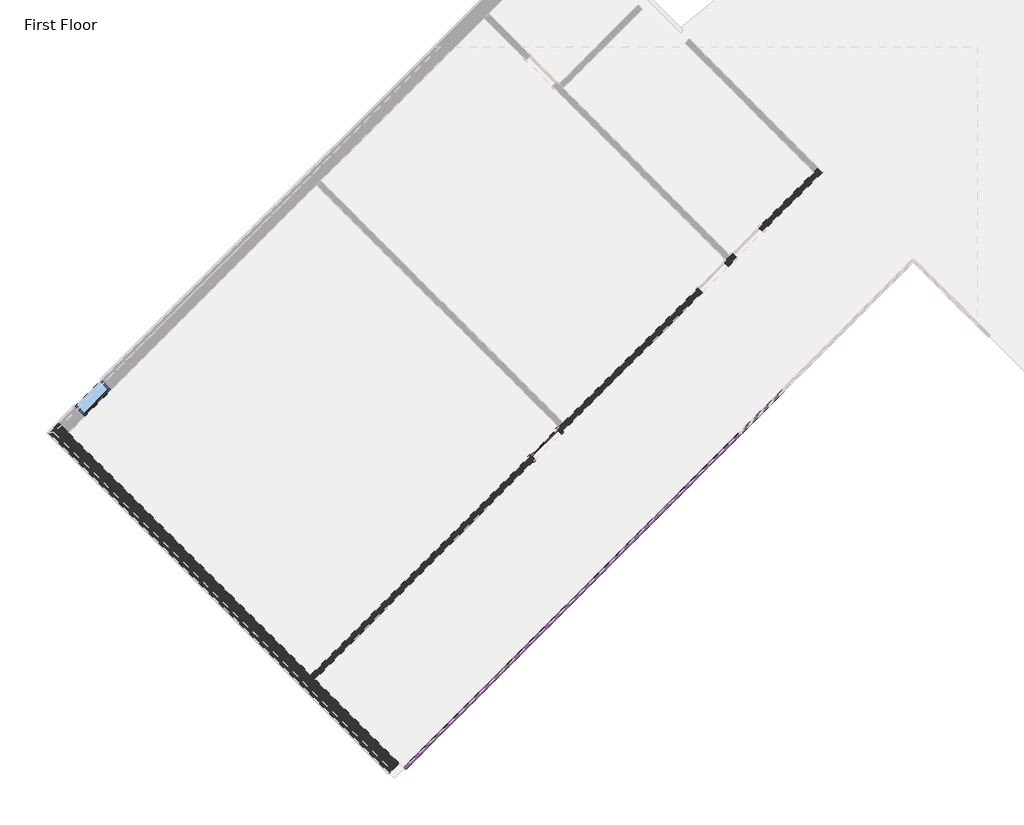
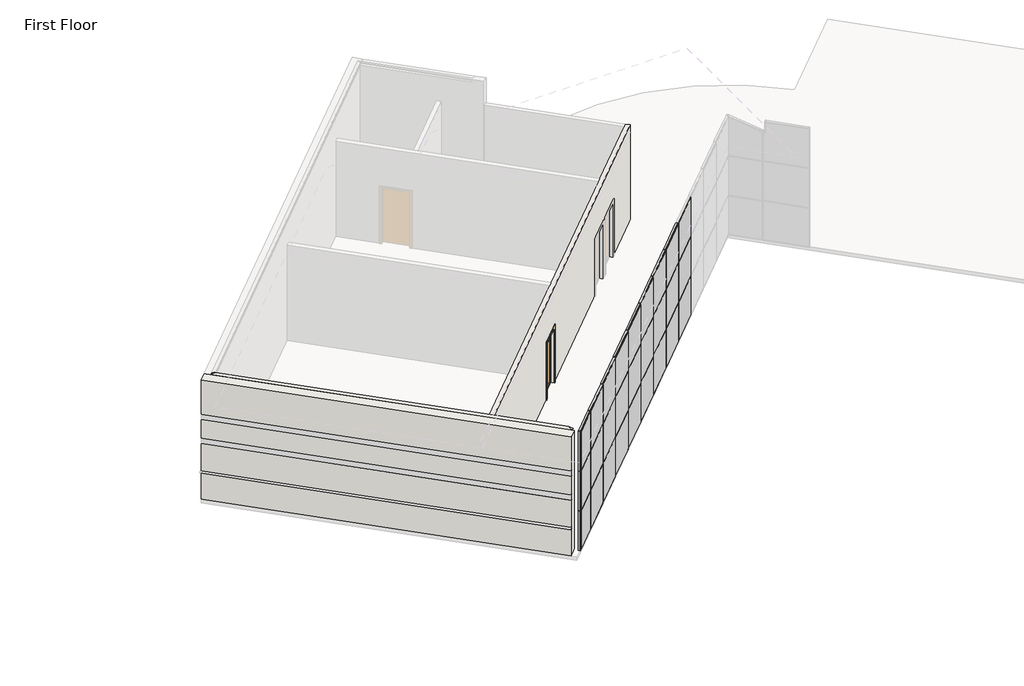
# One storey, part 1 of 5: 56 members, 27 plates, 2 walls, 1 door, 1 window.
"""IFC4 building model written with IfcOpenShell, lengths in millimetres."""

from ifc_helpers import new_model, si_unit, origin, place, context, project, spatial, faceted_brep, transform, mapped, element, save
from components import door_b81abb0e, member_bd80eb51, member_155beb68, member_42be4715, member_a3731390, member_6121af53, member_b87a50da, system_panel_solid_2f1037e2, system_panel_solid_5fd6f37f, system_panel_solid_6e0f4c8d, system_panel_solid_e1a07a15, window_15c49d37

model = new_model("IFC4")

# Units and contexts
model_context = context("Model", 3, world=origin())
ifc_project = project(units=[si_unit("LENGTHUNIT", "METRE", prefix="MILLI")], contexts=[model_context])

# Site, building, storey
site = spatial("IfcSite", under=ifc_project)
building = spatial("IfcBuilding", under=site)
storey = spatial("IfcBuildingStorey", under=building, Name="First Floor", Elevation=0.0)

# Door
placement = place(None, origin())
door_shape = door_b81abb0e(model_context)
element("IfcDoor", 1, ObjectType="Single-Glass 1 : 36\" x 84\"", at=placement, inside=storey, context=model_context, shape_type="MappedRepresentation", body=[
    mapped(door_shape, transform((-12602.8718391, -2278.0890678, 0.0), x_axis=(0.707106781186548, 0.707106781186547, 0.0), y_axis=(-0.707106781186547, 0.707106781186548, 0.0), z_axis=(0.0, 0.0, 1.0))),
])

# Members
member_shape = member_bd80eb51(model_context)
element("IfcMember", 2, ObjectType="Rectangular Mullion : 1.5\" x 2.5\" Rectangular", at=placement, inside=storey, context=model_context, shape_type="MappedRepresentation", body=[
    mapped(member_shape, transform((-16098.4365342, -10333.3788084, 4572.0), x_axis=(0.0, 0.0, 1.0), y_axis=(-0.7071067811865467, 0.7071067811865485, 0.0), z_axis=(-0.7071067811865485, -0.7071067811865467, 0.0))),
])
member_2_shape = member_155beb68(model_context)
element("IfcMember", 3, ObjectType="Rectangular Mullion : 1.5\" x 2.5\" Rectangular", at=placement, inside=storey, context=model_context, shape_type="MappedRepresentation", body=[
    mapped(member_2_shape, transform((-8831.1642682, -3066.1065424, 0.0), x_axis=(-0.7071067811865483, -0.7071067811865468, 0.0), y_axis=(-0.7071067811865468, 0.7071067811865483, 0.0), z_axis=(0.0, 0.0, -1.0))),
])
element("IfcMember", 4, ObjectType="Rectangular Mullion : 1.5\" x 2.5\" Rectangular", at=placement, inside=storey, context=model_context, shape_type="MappedRepresentation", body=[
    mapped(member_2_shape, transform((-9908.7950028, -4143.7372769, 0.0), x_axis=(-0.7071067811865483, -0.7071067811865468, 0.0), y_axis=(-0.7071067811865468, 0.7071067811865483, 0.0), z_axis=(0.0, 0.0, -1.0))),
])
element("IfcMember", 5, ObjectType="Rectangular Mullion : 1.5\" x 2.5\" Rectangular", at=placement, inside=storey, context=model_context, shape_type="MappedRepresentation", body=[
    mapped(member_2_shape, transform((-10986.4257373, -5221.3680114, 0.0), x_axis=(-0.7071067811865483, -0.7071067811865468, 0.0), y_axis=(-0.7071067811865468, 0.7071067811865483, 0.0), z_axis=(0.0, 0.0, -1.0))),
])
element("IfcMember", 6, ObjectType="Rectangular Mullion : 1.5\" x 2.5\" Rectangular", at=placement, inside=storey, context=model_context, shape_type="MappedRepresentation", body=[
    mapped(member_2_shape, transform((-12064.0564718, -6298.998746, 0.0), x_axis=(-0.7071067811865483, -0.7071067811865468, 0.0), y_axis=(-0.7071067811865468, 0.7071067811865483, 0.0), z_axis=(0.0, 0.0, -1.0))),
])
element("IfcMember", 7, ObjectType="Rectangular Mullion : 1.5\" x 2.5\" Rectangular", at=placement, inside=storey, context=model_context, shape_type="MappedRepresentation", body=[
    mapped(member_2_shape, transform((-13141.6872064, -7376.6294805, 0.0), x_axis=(-0.7071067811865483, -0.7071067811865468, 0.0), y_axis=(-0.7071067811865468, 0.7071067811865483, 0.0), z_axis=(0.0, 0.0, -1.0))),
])
element("IfcMember", 8, ObjectType="Rectangular Mullion : 1.5\" x 2.5\" Rectangular", at=placement, inside=storey, context=model_context, shape_type="MappedRepresentation", body=[
    mapped(member_2_shape, transform((-14219.3179409, -8454.260215, 0.0), x_axis=(-0.7071067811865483, -0.7071067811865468, 0.0), y_axis=(-0.7071067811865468, 0.7071067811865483, 0.0), z_axis=(0.0, 0.0, -1.0))),
])
element("IfcMember", 9, ObjectType="Rectangular Mullion : 1.5\" x 2.5\" Rectangular", at=placement, inside=storey, context=model_context, shape_type="MappedRepresentation", body=[
    mapped(member_2_shape, transform((-15296.9486754, -9531.8909496, 0.0), x_axis=(-0.7071067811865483, -0.7071067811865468, 0.0), y_axis=(-0.7071067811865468, 0.7071067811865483, 0.0), z_axis=(0.0, 0.0, -1.0))),
])
member_3_shape = member_42be4715(model_context)
element("IfcMember", 10, ObjectType="Rectangular Mullion : 1.5\" x 2.5\" Rectangular", at=placement, inside=storey, context=model_context, shape_type="MappedRepresentation", body=[
    mapped(member_3_shape, transform((-8817.6938841, -3052.6361582, 1524.0), x_axis=(0.0, 0.0, 1.0), y_axis=(-0.7071067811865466, 0.7071067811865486, 0.0), z_axis=(-0.7071067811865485, -0.7071067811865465, 0.0))),
])
element("IfcMember", 11, ObjectType="Rectangular Mullion : 1.5\" x 2.5\" Rectangular", at=placement, inside=storey, context=model_context, shape_type="MappedRepresentation", body=[
    mapped(member_3_shape, transform((-9895.3246186, -4130.2668927, 1524.0), x_axis=(0.0, 0.0, 1.0), y_axis=(-0.7071067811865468, 0.7071067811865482, 0.0), z_axis=(-0.7071067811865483, -0.7071067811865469, 0.0))),
])
element("IfcMember", 12, ObjectType="Rectangular Mullion : 1.5\" x 2.5\" Rectangular", at=placement, inside=storey, context=model_context, shape_type="MappedRepresentation", body=[
    mapped(member_3_shape, transform((-10972.9553531, -5207.8976273, 1524.0), x_axis=(0.0, 0.0, 1.0), y_axis=(-0.7071067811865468, 0.7071067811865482, 0.0), z_axis=(-0.7071067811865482, -0.7071067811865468, 0.0))),
])
element("IfcMember", 13, ObjectType="Rectangular Mullion : 1.5\" x 2.5\" Rectangular", at=placement, inside=storey, context=model_context, shape_type="MappedRepresentation", body=[
    mapped(member_3_shape, transform((-12050.5860877, -6285.5283618, 1524.0), x_axis=(0.0, 0.0, 1.0), y_axis=(-0.7071067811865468, 0.7071067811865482, 0.0), z_axis=(-0.7071067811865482, -0.7071067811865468, 0.0))),
])
element("IfcMember", 14, ObjectType="Rectangular Mullion : 1.5\" x 2.5\" Rectangular", at=placement, inside=storey, context=model_context, shape_type="MappedRepresentation", body=[
    mapped(member_3_shape, transform((-13128.2168222, -7363.1590963, 1524.0), x_axis=(0.0, 0.0, 1.0), y_axis=(-0.7071067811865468, 0.7071067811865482, 0.0), z_axis=(-0.7071067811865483, -0.7071067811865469, 0.0))),
])
element("IfcMember", 15, ObjectType="Rectangular Mullion : 1.5\" x 2.5\" Rectangular", at=placement, inside=storey, context=model_context, shape_type="MappedRepresentation", body=[
    mapped(member_3_shape, transform((-14205.8475567, -8440.7898309, 1524.0), x_axis=(0.0, 0.0, 1.0), y_axis=(-0.7071067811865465, 0.7071067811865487, 0.0), z_axis=(-0.7071067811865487, -0.7071067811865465, 0.0))),
])
element("IfcMember", 16, ObjectType="Rectangular Mullion : 1.5\" x 2.5\" Rectangular", at=placement, inside=storey, context=model_context, shape_type="MappedRepresentation", body=[
    mapped(member_3_shape, transform((-15283.4782912, -9518.4205654, 1524.0), x_axis=(0.0, 0.0, 1.0), y_axis=(-0.7071067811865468, 0.7071067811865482, 0.0), z_axis=(-0.7071067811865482, -0.7071067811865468, 0.0))),
])
element("IfcMember", 17, ObjectType="Rectangular Mullion : 1.5\" x 2.5\" Rectangular", at=placement, inside=storey, context=model_context, shape_type="MappedRepresentation", body=[
    mapped(member_3_shape, transform((-8817.6938841, -3052.6361582, 3048.0), x_axis=(0.0, 0.0, 1.0), y_axis=(-0.7071067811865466, 0.7071067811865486, 0.0), z_axis=(-0.7071067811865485, -0.7071067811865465, 0.0))),
])
element("IfcMember", 18, ObjectType="Rectangular Mullion : 1.5\" x 2.5\" Rectangular", at=placement, inside=storey, context=model_context, shape_type="MappedRepresentation", body=[
    mapped(member_3_shape, transform((-9895.3246186, -4130.2668927, 3048.0), x_axis=(0.0, 0.0, 1.0), y_axis=(-0.7071067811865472, 0.7071067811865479, 0.0), z_axis=(-0.7071067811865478, -0.7071067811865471, 0.0))),
])
element("IfcMember", 19, ObjectType="Rectangular Mullion : 1.5\" x 2.5\" Rectangular", at=placement, inside=storey, context=model_context, shape_type="MappedRepresentation", body=[
    mapped(member_3_shape, transform((-10972.9553531, -5207.8976273, 3048.0), x_axis=(0.0, 0.0, 1.0), y_axis=(-0.7071067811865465, 0.7071067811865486, 0.0), z_axis=(-0.7071067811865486, -0.7071067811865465, 0.0))),
])
element("IfcMember", 20, ObjectType="Rectangular Mullion : 1.5\" x 2.5\" Rectangular", at=placement, inside=storey, context=model_context, shape_type="MappedRepresentation", body=[
    mapped(member_3_shape, transform((-12050.5860877, -6285.5283618, 3048.0), x_axis=(0.0, 0.0, 1.0), y_axis=(-0.7071067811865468, 0.7071067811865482, 0.0), z_axis=(-0.7071067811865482, -0.7071067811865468, 0.0))),
])
element("IfcMember", 21, ObjectType="Rectangular Mullion : 1.5\" x 2.5\" Rectangular", at=placement, inside=storey, context=model_context, shape_type="MappedRepresentation", body=[
    mapped(member_3_shape, transform((-13128.2168222, -7363.1590963, 3048.0), x_axis=(0.0, 0.0, 1.0), y_axis=(-0.7071067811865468, 0.7071067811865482, 0.0), z_axis=(-0.7071067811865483, -0.7071067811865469, 0.0))),
])
element("IfcMember", 22, ObjectType="Rectangular Mullion : 1.5\" x 2.5\" Rectangular", at=placement, inside=storey, context=model_context, shape_type="MappedRepresentation", body=[
    mapped(member_3_shape, transform((-14205.8475567, -8440.7898309, 3048.0), x_axis=(0.0, 0.0, 1.0), y_axis=(-0.7071067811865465, 0.7071067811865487, 0.0), z_axis=(-0.7071067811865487, -0.7071067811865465, 0.0))),
])
element("IfcMember", 23, ObjectType="Rectangular Mullion : 1.5\" x 2.5\" Rectangular", at=placement, inside=storey, context=model_context, shape_type="MappedRepresentation", body=[
    mapped(member_3_shape, transform((-15283.4782912, -9518.4205654, 3048.0), x_axis=(0.0, 0.0, 1.0), y_axis=(-0.7071067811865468, 0.7071067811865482, 0.0), z_axis=(-0.7071067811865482, -0.7071067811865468, 0.0))),
])
member_4_shape = member_a3731390(model_context)
element("IfcMember", 24, ObjectType="Rectangular Mullion : 1.5\" x 2.5\" Rectangular", at=placement, inside=storey, context=model_context, shape_type="MappedRepresentation", body=[
    mapped(member_4_shape, transform((-16098.4365342, -10333.3788084, 1524.0), x_axis=(0.0, 0.0, 1.0), y_axis=(-0.7071067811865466, 0.7071067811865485, 0.0), z_axis=(-0.7071067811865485, -0.7071067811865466, 0.0))),
])
element("IfcMember", 25, ObjectType="Rectangular Mullion : 1.5\" x 2.5\" Rectangular", at=placement, inside=storey, context=model_context, shape_type="MappedRepresentation", body=[
    mapped(member_4_shape, transform((-16098.4365342, -10333.3788084, 3048.0), x_axis=(0.0, 0.0, 1.0), y_axis=(-0.7071067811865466, 0.7071067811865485, 0.0), z_axis=(-0.7071067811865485, -0.7071067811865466, 0.0))),
])
member_5_shape = member_6121af53(model_context)
element("IfcMember", 26, ObjectType="Rectangular Mullion : 1.5\" x 2.5\" Rectangular", at=placement, inside=storey, context=model_context, shape_type="MappedRepresentation", body=[
    mapped(member_5_shape, transform((-7767.0039179, -2001.946192, 0.0), x_axis=(0.0, 0.0, -1.0), y_axis=(-0.7071067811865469, 0.7071067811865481, 0.0), z_axis=(0.7071067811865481, 0.7071067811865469, 0.0))),
])
element("IfcMember", 27, ObjectType="Rectangular Mullion : 1.5\" x 2.5\" Rectangular", at=placement, inside=storey, context=model_context, shape_type="MappedRepresentation", body=[
    mapped(member_5_shape, transform((-8844.6346524, -3079.5769266, 0.0), x_axis=(0.0, 0.0, -1.0), y_axis=(-0.7071067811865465, 0.7071067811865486, 0.0), z_axis=(0.7071067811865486, 0.7071067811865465, 0.0))),
])
element("IfcMember", 28, ObjectType="Rectangular Mullion : 1.5\" x 2.5\" Rectangular", at=placement, inside=storey, context=model_context, shape_type="MappedRepresentation", body=[
    mapped(member_5_shape, transform((-9922.265387, -4157.2076611, 0.0), x_axis=(0.0, 0.0, -1.0), y_axis=(-0.7071067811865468, 0.7071067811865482, 0.0), z_axis=(0.7071067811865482, 0.7071067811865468, 0.0))),
])
element("IfcMember", 29, ObjectType="Rectangular Mullion : 1.5\" x 2.5\" Rectangular", at=placement, inside=storey, context=model_context, shape_type="MappedRepresentation", body=[
    mapped(member_5_shape, transform((-10999.8961215, -5234.8383956, 0.0), x_axis=(0.0, 0.0, -1.0), y_axis=(-0.7071067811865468, 0.7071067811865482, 0.0), z_axis=(0.7071067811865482, 0.7071067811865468, 0.0))),
])
element("IfcMember", 30, ObjectType="Rectangular Mullion : 1.5\" x 2.5\" Rectangular", at=placement, inside=storey, context=model_context, shape_type="MappedRepresentation", body=[
    mapped(member_5_shape, transform((-12077.526856, -6312.4691302, 0.0), x_axis=(0.0, 0.0, -1.0), y_axis=(-0.7071067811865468, 0.7071067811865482, 0.0), z_axis=(0.7071067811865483, 0.7071067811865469, 0.0))),
])
element("IfcMember", 31, ObjectType="Rectangular Mullion : 1.5\" x 2.5\" Rectangular", at=placement, inside=storey, context=model_context, shape_type="MappedRepresentation", body=[
    mapped(member_5_shape, transform((-13155.1575905, -7390.0998647, 0.0), x_axis=(0.0, 0.0, -1.0), y_axis=(-0.7071067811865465, 0.7071067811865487, 0.0), z_axis=(0.7071067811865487, 0.7071067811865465, 0.0))),
])
element("IfcMember", 32, ObjectType="Rectangular Mullion : 1.5\" x 2.5\" Rectangular", at=placement, inside=storey, context=model_context, shape_type="MappedRepresentation", body=[
    mapped(member_5_shape, transform((-14232.7883251, -8467.7305992, 0.0), x_axis=(0.0, 0.0, -1.0), y_axis=(-0.7071067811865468, 0.7071067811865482, 0.0), z_axis=(0.7071067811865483, 0.7071067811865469, 0.0))),
])
element("IfcMember", 33, ObjectType="Rectangular Mullion : 1.5\" x 2.5\" Rectangular", at=placement, inside=storey, context=model_context, shape_type="MappedRepresentation", body=[
    mapped(member_shape, transform((-15310.4190596, -9545.3613337, 0.0), x_axis=(0.0, 0.0, -1.0), y_axis=(-0.7071067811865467, 0.7071067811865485, 0.0), z_axis=(0.7071067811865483, 0.7071067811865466, 0.0))),
])
element("IfcMember", 34, ObjectType="Rectangular Mullion : 1.5\" x 2.5\" Rectangular", at=placement, inside=storey, context=model_context, shape_type="MappedRepresentation", body=[
    mapped(member_5_shape, transform((-8817.6938841, -3052.6361582, 4572.0), x_axis=(0.0, 0.0, 1.0), y_axis=(-0.7071067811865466, 0.7071067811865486, 0.0), z_axis=(-0.7071067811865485, -0.7071067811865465, 0.0))),
])
element("IfcMember", 35, ObjectType="Rectangular Mullion : 1.5\" x 2.5\" Rectangular", at=placement, inside=storey, context=model_context, shape_type="MappedRepresentation", body=[
    mapped(member_5_shape, transform((-9895.3246186, -4130.2668927, 4572.0), x_axis=(0.0, 0.0, 1.0), y_axis=(-0.7071067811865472, 0.7071067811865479, 0.0), z_axis=(-0.7071067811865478, -0.7071067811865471, 0.0))),
])
element("IfcMember", 36, ObjectType="Rectangular Mullion : 1.5\" x 2.5\" Rectangular", at=placement, inside=storey, context=model_context, shape_type="MappedRepresentation", body=[
    mapped(member_5_shape, transform((-10972.9553531, -5207.8976273, 4572.0), x_axis=(0.0, 0.0, 1.0), y_axis=(-0.7071067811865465, 0.7071067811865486, 0.0), z_axis=(-0.7071067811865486, -0.7071067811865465, 0.0))),
])
element("IfcMember", 37, ObjectType="Rectangular Mullion : 1.5\" x 2.5\" Rectangular", at=placement, inside=storey, context=model_context, shape_type="MappedRepresentation", body=[
    mapped(member_5_shape, transform((-12050.5860877, -6285.5283618, 4572.0), x_axis=(0.0, 0.0, 1.0), y_axis=(-0.7071067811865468, 0.7071067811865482, 0.0), z_axis=(-0.7071067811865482, -0.7071067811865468, 0.0))),
])
element("IfcMember", 38, ObjectType="Rectangular Mullion : 1.5\" x 2.5\" Rectangular", at=placement, inside=storey, context=model_context, shape_type="MappedRepresentation", body=[
    mapped(member_5_shape, transform((-13128.2168222, -7363.1590963, 4572.0), x_axis=(0.0, 0.0, 1.0), y_axis=(-0.7071067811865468, 0.7071067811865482, 0.0), z_axis=(-0.7071067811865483, -0.7071067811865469, 0.0))),
])
element("IfcMember", 39, ObjectType="Rectangular Mullion : 1.5\" x 2.5\" Rectangular", at=placement, inside=storey, context=model_context, shape_type="MappedRepresentation", body=[
    mapped(member_5_shape, transform((-14205.8475567, -8440.7898309, 4572.0), x_axis=(0.0, 0.0, 1.0), y_axis=(-0.7071067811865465, 0.7071067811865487, 0.0), z_axis=(-0.7071067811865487, -0.7071067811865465, 0.0))),
])
element("IfcMember", 40, ObjectType="Rectangular Mullion : 1.5\" x 2.5\" Rectangular", at=placement, inside=storey, context=model_context, shape_type="MappedRepresentation", body=[
    mapped(member_5_shape, transform((-15283.4782912, -9518.4205654, 4572.0), x_axis=(0.0, 0.0, 1.0), y_axis=(-0.7071067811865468, 0.7071067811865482, 0.0), z_axis=(-0.7071067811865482, -0.7071067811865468, 0.0))),
])
element("IfcMember", 41, ObjectType="Rectangular Mullion : 1.5\" x 2.5\" Rectangular", at=placement, inside=storey, context=model_context, shape_type="MappedRepresentation", body=[
    mapped(member_2_shape, transform((-8831.1642682, -3066.1065424, 1524.0), x_axis=(-0.7071067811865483, -0.7071067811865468, 0.0), y_axis=(-0.7071067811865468, 0.7071067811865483, 0.0), z_axis=(0.0, 0.0, -1.0))),
])
element("IfcMember", 42, ObjectType="Rectangular Mullion : 1.5\" x 2.5\" Rectangular", at=placement, inside=storey, context=model_context, shape_type="MappedRepresentation", body=[
    mapped(member_2_shape, transform((-9908.7950028, -4143.7372769, 1524.0), x_axis=(-0.7071067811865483, -0.7071067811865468, 0.0), y_axis=(-0.7071067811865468, 0.7071067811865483, 0.0), z_axis=(0.0, 0.0, -1.0))),
])
element("IfcMember", 43, ObjectType="Rectangular Mullion : 1.5\" x 2.5\" Rectangular", at=placement, inside=storey, context=model_context, shape_type="MappedRepresentation", body=[
    mapped(member_2_shape, transform((-10986.4257373, -5221.3680114, 1524.0), x_axis=(-0.7071067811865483, -0.7071067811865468, 0.0), y_axis=(-0.7071067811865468, 0.7071067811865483, 0.0), z_axis=(0.0, 0.0, -1.0))),
])
element("IfcMember", 44, ObjectType="Rectangular Mullion : 1.5\" x 2.5\" Rectangular", at=placement, inside=storey, context=model_context, shape_type="MappedRepresentation", body=[
    mapped(member_2_shape, transform((-12064.0564718, -6298.998746, 1524.0), x_axis=(-0.7071067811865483, -0.7071067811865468, 0.0), y_axis=(-0.7071067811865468, 0.7071067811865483, 0.0), z_axis=(0.0, 0.0, -1.0))),
])
element("IfcMember", 45, ObjectType="Rectangular Mullion : 1.5\" x 2.5\" Rectangular", at=placement, inside=storey, context=model_context, shape_type="MappedRepresentation", body=[
    mapped(member_2_shape, transform((-13141.6872064, -7376.6294805, 1524.0), x_axis=(-0.7071067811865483, -0.7071067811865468, 0.0), y_axis=(-0.7071067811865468, 0.7071067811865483, 0.0), z_axis=(0.0, 0.0, -1.0))),
])
element("IfcMember", 46, ObjectType="Rectangular Mullion : 1.5\" x 2.5\" Rectangular", at=placement, inside=storey, context=model_context, shape_type="MappedRepresentation", body=[
    mapped(member_2_shape, transform((-14219.3179409, -8454.260215, 1524.0), x_axis=(-0.7071067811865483, -0.7071067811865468, 0.0), y_axis=(-0.7071067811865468, 0.7071067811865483, 0.0), z_axis=(0.0, 0.0, -1.0))),
])
element("IfcMember", 47, ObjectType="Rectangular Mullion : 1.5\" x 2.5\" Rectangular", at=placement, inside=storey, context=model_context, shape_type="MappedRepresentation", body=[
    mapped(member_2_shape, transform((-15296.9486754, -9531.8909496, 1524.0), x_axis=(-0.7071067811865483, -0.7071067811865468, 0.0), y_axis=(-0.7071067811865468, 0.7071067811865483, 0.0), z_axis=(0.0, 0.0, -1.0))),
])
element("IfcMember", 48, ObjectType="Rectangular Mullion : 1.5\" x 2.5\" Rectangular", at=placement, inside=storey, context=model_context, shape_type="MappedRepresentation", body=[
    mapped(member_2_shape, transform((-8831.1642682, -3066.1065424, 3048.0), x_axis=(-0.7071067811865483, -0.7071067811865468, 0.0), y_axis=(-0.7071067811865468, 0.7071067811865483, 0.0), z_axis=(0.0, 0.0, -1.0))),
])
element("IfcMember", 49, ObjectType="Rectangular Mullion : 1.5\" x 2.5\" Rectangular", at=placement, inside=storey, context=model_context, shape_type="MappedRepresentation", body=[
    mapped(member_2_shape, transform((-9908.7950028, -4143.7372769, 3048.0), x_axis=(-0.7071067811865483, -0.7071067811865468, 0.0), y_axis=(-0.7071067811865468, 0.7071067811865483, 0.0), z_axis=(0.0, 0.0, -1.0))),
])
element("IfcMember", 50, ObjectType="Rectangular Mullion : 1.5\" x 2.5\" Rectangular", at=placement, inside=storey, context=model_context, shape_type="MappedRepresentation", body=[
    mapped(member_2_shape, transform((-10986.4257373, -5221.3680114, 3048.0), x_axis=(-0.7071067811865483, -0.7071067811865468, 0.0), y_axis=(-0.7071067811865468, 0.7071067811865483, 0.0), z_axis=(0.0, 0.0, -1.0))),
])
element("IfcMember", 51, ObjectType="Rectangular Mullion : 1.5\" x 2.5\" Rectangular", at=placement, inside=storey, context=model_context, shape_type="MappedRepresentation", body=[
    mapped(member_2_shape, transform((-12064.0564718, -6298.998746, 3048.0), x_axis=(-0.7071067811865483, -0.7071067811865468, 0.0), y_axis=(-0.7071067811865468, 0.7071067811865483, 0.0), z_axis=(0.0, 0.0, -1.0))),
])
element("IfcMember", 52, ObjectType="Rectangular Mullion : 1.5\" x 2.5\" Rectangular", at=placement, inside=storey, context=model_context, shape_type="MappedRepresentation", body=[
    mapped(member_2_shape, transform((-13141.6872064, -7376.6294805, 3048.0), x_axis=(-0.7071067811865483, -0.7071067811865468, 0.0), y_axis=(-0.7071067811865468, 0.7071067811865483, 0.0), z_axis=(0.0, 0.0, -1.0))),
])
element("IfcMember", 53, ObjectType="Rectangular Mullion : 1.5\" x 2.5\" Rectangular", at=placement, inside=storey, context=model_context, shape_type="MappedRepresentation", body=[
    mapped(member_2_shape, transform((-14219.3179409, -8454.260215, 3048.0), x_axis=(-0.7071067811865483, -0.7071067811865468, 0.0), y_axis=(-0.7071067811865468, 0.7071067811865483, 0.0), z_axis=(0.0, 0.0, -1.0))),
])
element("IfcMember", 54, ObjectType="Rectangular Mullion : 1.5\" x 2.5\" Rectangular", at=placement, inside=storey, context=model_context, shape_type="MappedRepresentation", body=[
    mapped(member_2_shape, transform((-15296.9486754, -9531.8909496, 3048.0), x_axis=(-0.7071067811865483, -0.7071067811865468, 0.0), y_axis=(-0.7071067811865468, 0.7071067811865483, 0.0), z_axis=(0.0, 0.0, -1.0))),
])
member_6_shape = member_b87a50da(model_context)
element("IfcMember", 55, ObjectType="Rectangular Mullion : 1.5\" x 2.5\" Rectangular", at=placement, inside=storey, context=model_context, shape_type="MappedRepresentation", body=[
    mapped(member_6_shape, transform((-16125.3773026, -10360.3195767, 0.0), x_axis=(-0.7071067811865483, -0.7071067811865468, 0.0), y_axis=(-0.7071067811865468, 0.7071067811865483, 0.0), z_axis=(0.0, 0.0, -1.0))),
])
element("IfcMember", 56, ObjectType="Rectangular Mullion : 1.5\" x 2.5\" Rectangular", at=placement, inside=storey, context=model_context, shape_type="MappedRepresentation", body=[
    mapped(member_6_shape, transform((-16125.3773026, -10360.3195767, 1524.0), x_axis=(-0.7071067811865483, -0.7071067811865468, 0.0), y_axis=(-0.7071067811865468, 0.7071067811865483, 0.0), z_axis=(0.0, 0.0, -1.0))),
])
element("IfcMember", 57, ObjectType="Rectangular Mullion : 1.5\" x 2.5\" Rectangular", at=placement, inside=storey, context=model_context, shape_type="MappedRepresentation", body=[
    mapped(member_6_shape, transform((-16125.3773026, -10360.3195767, 3048.0), x_axis=(-0.7071067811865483, -0.7071067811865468, 0.0), y_axis=(-0.7071067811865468, 0.7071067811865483, 0.0), z_axis=(0.0, 0.0, -1.0))),
])

# Plates
system_panel_solid_shape = system_panel_solid_2f1037e2(model_context)
element("IfcPlate", 58, ObjectType="System Panel : Solid", at=placement, inside=storey, context=model_context, shape_type="MappedRepresentation", body=[
    mapped(system_panel_solid_shape, transform((-7214.7181665, -1449.6604406, 38.1), x_axis=(-0.7071067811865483, -0.7071067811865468, 0.0), y_axis=(0.7071067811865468, -0.7071067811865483, 0.0), z_axis=(0.0, 0.0, 1.0))),
])
element("IfcPlate", 59, ObjectType="System Panel : Solid", at=placement, inside=storey, context=model_context, shape_type="MappedRepresentation", body=[
    mapped(system_panel_solid_shape, transform((-8292.348901, -2527.2911751, 38.1), x_axis=(-0.7071067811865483, -0.7071067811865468, 0.0), y_axis=(0.7071067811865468, -0.7071067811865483, 0.0), z_axis=(0.0, 0.0, 1.0))),
])
element("IfcPlate", 60, ObjectType="System Panel : Solid", at=placement, inside=storey, context=model_context, shape_type="MappedRepresentation", body=[
    mapped(system_panel_solid_shape, transform((-9369.9796355, -3604.9219097, 38.1), x_axis=(-0.7071067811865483, -0.7071067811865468, 0.0), y_axis=(0.7071067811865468, -0.7071067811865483, 0.0), z_axis=(0.0, 0.0, 1.0))),
])
element("IfcPlate", 61, ObjectType="System Panel : Solid", at=placement, inside=storey, context=model_context, shape_type="MappedRepresentation", body=[
    mapped(system_panel_solid_shape, transform((-10447.61037, -4682.5526442, 38.1), x_axis=(-0.7071067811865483, -0.7071067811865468, 0.0), y_axis=(0.7071067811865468, -0.7071067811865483, 0.0), z_axis=(0.0, 0.0, 1.0))),
])
element("IfcPlate", 62, ObjectType="System Panel : Solid", at=placement, inside=storey, context=model_context, shape_type="MappedRepresentation", body=[
    mapped(system_panel_solid_shape, transform((-11525.2411046, -5760.1833787, 38.1), x_axis=(-0.7071067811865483, -0.7071067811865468, 0.0), y_axis=(0.7071067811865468, -0.7071067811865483, 0.0), z_axis=(0.0, 0.0, 1.0))),
])
element("IfcPlate", 63, ObjectType="System Panel : Solid", at=placement, inside=storey, context=model_context, shape_type="MappedRepresentation", body=[
    mapped(system_panel_solid_shape, transform((-12602.8718391, -6837.8141132, 38.1), x_axis=(-0.7071067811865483, -0.7071067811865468, 0.0), y_axis=(0.7071067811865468, -0.7071067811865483, 0.0), z_axis=(0.0, 0.0, 1.0))),
])
element("IfcPlate", 64, ObjectType="System Panel : Solid", at=placement, inside=storey, context=model_context, shape_type="MappedRepresentation", body=[
    mapped(system_panel_solid_shape, transform((-13680.5025736, -7915.4448478, 38.1), x_axis=(-0.7071067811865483, -0.7071067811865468, 0.0), y_axis=(0.7071067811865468, -0.7071067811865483, 0.0), z_axis=(0.0, 0.0, 1.0))),
])
element("IfcPlate", 65, ObjectType="System Panel : Solid", at=placement, inside=storey, context=model_context, shape_type="MappedRepresentation", body=[
    mapped(system_panel_solid_shape, transform((-14758.1333082, -8993.0755823, 38.1), x_axis=(-0.7071067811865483, -0.7071067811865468, 0.0), y_axis=(0.7071067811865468, -0.7071067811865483, 0.0), z_axis=(0.0, 0.0, 1.0))),
])
element("IfcPlate", 66, ObjectType="System Panel : Solid", at=placement, inside=storey, context=model_context, shape_type="MappedRepresentation", body=[
    mapped(system_panel_solid_shape, transform((-7214.7181665, -1449.6604406, 3067.05), x_axis=(-0.7071067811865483, -0.7071067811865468, 0.0), y_axis=(0.7071067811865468, -0.7071067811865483, 0.0), z_axis=(0.0, 0.0, 1.0))),
])
element("IfcPlate", 67, ObjectType="System Panel : Solid", at=placement, inside=storey, context=model_context, shape_type="MappedRepresentation", body=[
    mapped(system_panel_solid_shape, transform((-8292.348901, -2527.2911751, 3067.05), x_axis=(-0.7071067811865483, -0.7071067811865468, 0.0), y_axis=(0.7071067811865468, -0.7071067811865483, 0.0), z_axis=(0.0, 0.0, 1.0))),
])
element("IfcPlate", 68, ObjectType="System Panel : Solid", at=placement, inside=storey, context=model_context, shape_type="MappedRepresentation", body=[
    mapped(system_panel_solid_shape, transform((-9369.9796355, -3604.9219097, 3067.05), x_axis=(-0.7071067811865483, -0.7071067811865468, 0.0), y_axis=(0.7071067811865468, -0.7071067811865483, 0.0), z_axis=(0.0, 0.0, 1.0))),
])
element("IfcPlate", 69, ObjectType="System Panel : Solid", at=placement, inside=storey, context=model_context, shape_type="MappedRepresentation", body=[
    mapped(system_panel_solid_shape, transform((-10447.61037, -4682.5526442, 3067.05), x_axis=(-0.7071067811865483, -0.7071067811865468, 0.0), y_axis=(0.7071067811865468, -0.7071067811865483, 0.0), z_axis=(0.0, 0.0, 1.0))),
])
element("IfcPlate", 70, ObjectType="System Panel : Solid", at=placement, inside=storey, context=model_context, shape_type="MappedRepresentation", body=[
    mapped(system_panel_solid_shape, transform((-11525.2411046, -5760.1833787, 3067.05), x_axis=(-0.7071067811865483, -0.7071067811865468, 0.0), y_axis=(0.7071067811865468, -0.7071067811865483, 0.0), z_axis=(0.0, 0.0, 1.0))),
])
element("IfcPlate", 71, ObjectType="System Panel : Solid", at=placement, inside=storey, context=model_context, shape_type="MappedRepresentation", body=[
    mapped(system_panel_solid_shape, transform((-12602.8718391, -6837.8141132, 3067.05), x_axis=(-0.7071067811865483, -0.7071067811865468, 0.0), y_axis=(0.7071067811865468, -0.7071067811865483, 0.0), z_axis=(0.0, 0.0, 1.0))),
])
element("IfcPlate", 72, ObjectType="System Panel : Solid", at=placement, inside=storey, context=model_context, shape_type="MappedRepresentation", body=[
    mapped(system_panel_solid_shape, transform((-13680.5025736, -7915.4448478, 3067.05), x_axis=(-0.7071067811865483, -0.7071067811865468, 0.0), y_axis=(0.7071067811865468, -0.7071067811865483, 0.0), z_axis=(0.0, 0.0, 1.0))),
])
element("IfcPlate", 73, ObjectType="System Panel : Solid", at=placement, inside=storey, context=model_context, shape_type="MappedRepresentation", body=[
    mapped(system_panel_solid_shape, transform((-14758.1333082, -8993.0755823, 3067.05), x_axis=(-0.7071067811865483, -0.7071067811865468, 0.0), y_axis=(0.7071067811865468, -0.7071067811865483, 0.0), z_axis=(0.0, 0.0, 1.0))),
])
system_panel_solid_2_shape = system_panel_solid_5fd6f37f(model_context)
element("IfcPlate", 74, ObjectType="System Panel : Solid", at=placement, inside=storey, context=model_context, shape_type="MappedRepresentation", body=[
    mapped(system_panel_solid_2_shape, transform((-7214.7181665, -1449.6604406, 1543.05), x_axis=(-0.7071067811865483, -0.7071067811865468, 0.0), y_axis=(0.7071067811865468, -0.7071067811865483, 0.0), z_axis=(0.0, 0.0, 1.0))),
])
element("IfcPlate", 75, ObjectType="System Panel : Solid", at=placement, inside=storey, context=model_context, shape_type="MappedRepresentation", body=[
    mapped(system_panel_solid_2_shape, transform((-8292.348901, -2527.2911751, 1543.05), x_axis=(-0.7071067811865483, -0.7071067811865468, 0.0), y_axis=(0.7071067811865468, -0.7071067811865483, 0.0), z_axis=(0.0, 0.0, 1.0))),
])
element("IfcPlate", 76, ObjectType="System Panel : Solid", at=placement, inside=storey, context=model_context, shape_type="MappedRepresentation", body=[
    mapped(system_panel_solid_2_shape, transform((-9369.9796355, -3604.9219097, 1543.05), x_axis=(-0.7071067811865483, -0.7071067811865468, 0.0), y_axis=(0.7071067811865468, -0.7071067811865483, 0.0), z_axis=(0.0, 0.0, 1.0))),
])
element("IfcPlate", 77, ObjectType="System Panel : Solid", at=placement, inside=storey, context=model_context, shape_type="MappedRepresentation", body=[
    mapped(system_panel_solid_2_shape, transform((-10447.61037, -4682.5526442, 1543.05), x_axis=(-0.7071067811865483, -0.7071067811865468, 0.0), y_axis=(0.7071067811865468, -0.7071067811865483, 0.0), z_axis=(0.0, 0.0, 1.0))),
])
element("IfcPlate", 78, ObjectType="System Panel : Solid", at=placement, inside=storey, context=model_context, shape_type="MappedRepresentation", body=[
    mapped(system_panel_solid_2_shape, transform((-11525.2411046, -5760.1833787, 1543.05), x_axis=(-0.7071067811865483, -0.7071067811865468, 0.0), y_axis=(0.7071067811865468, -0.7071067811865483, 0.0), z_axis=(0.0, 0.0, 1.0))),
])
element("IfcPlate", 79, ObjectType="System Panel : Solid", at=placement, inside=storey, context=model_context, shape_type="MappedRepresentation", body=[
    mapped(system_panel_solid_2_shape, transform((-12602.8718391, -6837.8141132, 1543.05), x_axis=(-0.7071067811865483, -0.7071067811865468, 0.0), y_axis=(0.7071067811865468, -0.7071067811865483, 0.0), z_axis=(0.0, 0.0, 1.0))),
])
element("IfcPlate", 80, ObjectType="System Panel : Solid", at=placement, inside=storey, context=model_context, shape_type="MappedRepresentation", body=[
    mapped(system_panel_solid_2_shape, transform((-13680.5025736, -7915.4448478, 1543.05), x_axis=(-0.7071067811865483, -0.7071067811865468, 0.0), y_axis=(0.7071067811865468, -0.7071067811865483, 0.0), z_axis=(0.0, 0.0, 1.0))),
])
element("IfcPlate", 81, ObjectType="System Panel : Solid", at=placement, inside=storey, context=model_context, shape_type="MappedRepresentation", body=[
    mapped(system_panel_solid_2_shape, transform((-14758.1333082, -8993.0755823, 1543.05), x_axis=(-0.7071067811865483, -0.7071067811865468, 0.0), y_axis=(0.7071067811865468, -0.7071067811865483, 0.0), z_axis=(0.0, 0.0, 1.0))),
])
system_panel_solid_3_shape = system_panel_solid_6e0f4c8d(model_context)
element("IfcPlate", 82, ObjectType="System Panel : Solid", at=placement, inside=storey, context=model_context, shape_type="MappedRepresentation", body=[
    mapped(system_panel_solid_3_shape, transform((-15704.4277969, -9939.3700711, 38.1), x_axis=(-0.7071067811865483, -0.7071067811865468, 0.0), y_axis=(0.7071067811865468, -0.7071067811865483, 0.0), z_axis=(0.0, 0.0, 1.0))),
])
element("IfcPlate", 83, ObjectType="System Panel : Solid", at=placement, inside=storey, context=model_context, shape_type="MappedRepresentation", body=[
    mapped(system_panel_solid_3_shape, transform((-15704.4277969, -9939.3700711, 3067.05), x_axis=(-0.7071067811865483, -0.7071067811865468, 0.0), y_axis=(0.7071067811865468, -0.7071067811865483, 0.0), z_axis=(0.0, 0.0, 1.0))),
])
system_panel_solid_4_shape = system_panel_solid_e1a07a15(model_context)
element("IfcPlate", 84, ObjectType="System Panel : Solid", at=placement, inside=storey, context=model_context, shape_type="MappedRepresentation", body=[
    mapped(system_panel_solid_4_shape, transform((-15704.4277969, -9939.3700711, 1543.05), x_axis=(-0.7071067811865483, -0.7071067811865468, 0.0), y_axis=(0.7071067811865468, -0.7071067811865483, 0.0), z_axis=(0.0, 0.0, 1.0))),
])

# Walls
element("IfcWall", 85, ObjectType="Exterior - Split Face and CMU on Mtl. Stud", at=placement, inside=storey, context=model_context, shape_type="Brep", body=[
    faceted_brep([(-24746.4231788, -1739.2737005, 0.0), (-24746.4231788, -1739.2737005, 1016.0), (-24681.3163219, -1804.3805574, 1016.0), (-24681.3163219, -1804.3805574, 1085.85), (-24746.4231788, -1739.2737005, 1085.85), (-24746.4231788, -1739.2737005, 2133.6), (-24681.3163219, -1804.3805574, 2133.6), (-24681.3163219, -1804.3805574, 2336.8), (-24746.4231788, -1739.2737005, 2336.8), (-24746.4231788, -1739.2737005, 3048.0), (-24681.3163219, -1804.3805574, 3048.0), (-24681.3163219, -1804.3805574, 3251.2), (-24746.4231788, -1739.2737005, 3251.2), (-24746.4231788, -1739.2737005, 4572.0), (-24497.2210715, -1988.4758079, 4572.0), (-16249.9783563, -10235.718523, 4572.0), (-16249.9783563, -10235.718523, 0.0), (-18350.2357566, -8135.4611227, 0.0), (-18460.2438941, -8025.4529853, 0.0), (-24497.2210715, -1988.4758079, 0.0), (-16499.1804636, -10484.9206304, 0.0), (-16499.1804636, -10484.9206304, 1016.0), (-24995.6252862, -1988.4758079, 1016.0), (-24995.6252862, -1988.4758079, 0.0), (-24995.6252862, -1988.4758079, 1085.85), (-16499.1804636, -10484.9206304, 1085.85), (-16499.1804636, -10484.9206304, 2133.6), (-24995.6252862, -1988.4758079, 2133.6), (-16499.1804636, -10484.9206304, 3251.2), (-16499.1804636, -10484.9206304, 4572.0), (-24995.6252862, -1988.4758079, 4572.0), (-24995.6252862, -1988.4758079, 3251.2), (-24995.6252862, -1988.4758079, 2336.8), (-16499.1804636, -10484.9206304, 2336.8), (-16499.1804636, -10484.9206304, 3048.0), (-24995.6252862, -1988.4758079, 3048.0), (-16434.0736067, -10419.8137735, 3251.2), (-16434.0736067, -10419.8137735, 3048.0), (-16434.0736067, -10419.8137735, 2336.8), (-16434.0736067, -10419.8137735, 2133.6), (-16434.0736067, -10419.8137735, 1085.85), (-16434.0736067, -10419.8137735, 1016.0), (-24865.4115724, -1988.4758079, 1085.85), (-24865.4115724, -1988.4758079, 1016.0), (-24865.4115724, -1988.4758079, 2133.6), (-24865.4115724, -1988.4758079, 2336.8), (-24865.4115724, -1988.4758079, 3048.0), (-24865.4115724, -1988.4758079, 3251.2)], [[[0, 1, 2, 3, 4, 5, 6, 7, 8, 9, 10, 11, 12, 13, 14, 15, 16, 17, 18, 19]], [[20, 21, 22, 23]], [[24, 25, 26, 27]], [[28, 29, 30, 31]], [[32, 33, 34, 35]], [[21, 20, 16, 15, 29, 28, 36, 37, 34, 33, 38, 39, 26, 25, 40, 41]], [[42, 40, 25, 24, 4, 3]], [[41, 43, 2, 1, 22, 21]], [[40, 42, 43, 41]], [[39, 44, 6, 5, 27, 26]], [[44, 39, 38, 45]], [[45, 38, 33, 32, 8, 7]], [[37, 46, 10, 9, 35, 34]], [[46, 37, 36, 47]], [[47, 36, 28, 31, 12, 11]], [[15, 14, 13, 30, 29]], [[13, 12, 31, 30]], [[1, 0, 23, 22]], [[5, 4, 24, 27]], [[9, 8, 32, 35]], [[43, 42, 3, 2]], [[44, 45, 7, 6]], [[46, 47, 11, 10]], [[0, 19, 18, 17, 16, 20, 23]]]),
    faceted_brep([(-24497.2210715, -1988.4758079, 4689.475), (-16374.5794099, -10111.1174694, 4689.475), (-16268.347062, -10217.3498173, 4639.3965909), (-24497.2210715, -1988.4758079, 4639.3965909), (-24572.61177, -1913.0851093, 4653.9354839), (-24648.0024686, -1988.4758079, 4653.9354839), (-16374.5794099, -10261.8988665, 4653.9354839)], [[[0, 1, 2, 3, 4]], [[0, 4, 5]], [[5, 3, 2, 6]], [[3, 5, 4]], [[2, 1, 6]], [[1, 0, 5, 6]]]),
])
element("IfcWall", 86, ObjectType="Interior - 6 1/8\" Partition (2-hr)", at=placement, inside=storey, context=model_context, shape_type="Brep", body=[
    faceted_brep([(-8055.4946458, 2159.2799881, 0.0), (-7839.9684989, 2374.806135, 0.0), (-7839.9684989, 2374.806135, 2133.6), (-7193.3900582, 3021.3845757, 2133.6), (-7193.3900582, 3021.3845757, 0.0), (-5703.7900741, 4510.9845598, 0.0), (-5703.7900741, 4510.9845598, 3657.6), (-18350.2357566, -8135.4611227, 3657.6), (-18350.2357566, -8135.4611227, 0.0), (-12871.1569907, -2656.3823569, 0.0), (-12871.1569907, -2656.3823569, 2133.6), (-12224.57855, -2009.8039162, 2133.6), (-12224.57855, -2009.8039162, 0.0), (-8702.0730865, 1512.7015473, 0.0), (-8702.0730865, 1512.7015473, 2133.6), (-8055.4946458, 2159.2799881, 2133.6), (-7949.9766364, 2484.8142724, 2133.6), (-7949.9766364, 2484.8142724, 0.0), (-8002.7356411, 2432.0552677, 0.0), (-8112.7437786, 2322.0471303, 0.0), (-8165.5027833, 2269.2881255, 0.0), (-8165.5027833, 2269.2881255, 2133.6), (-8812.081224, 1622.7096848, 2133.6), (-8812.081224, 1622.7096848, 0.0), (-12171.8195453, -1737.0286365, 0.0), (-12281.8276828, -1847.036774, 0.0), (-12334.5866875, -1899.7957787, 0.0), (-12334.5866875, -1899.7957787, 2133.6), (-12981.1651282, -2546.3742194, 2133.6), (-12981.1651282, -2546.3742194, 0.0), (-18460.2438941, -8025.4529853, 0.0), (-18460.2438941, -8025.4529853, 3657.6), (-12281.8276828, -1847.036774, 3657.6), (-12171.8195453, -1737.0286365, 3657.6), (-8112.7437786, 2322.0471303, 3657.6), (-8002.7356411, 2432.0552677, 3657.6), (-5923.8063491, 4510.9845598, 3657.6), (-5813.7982116, 4620.9926972, 3657.6), (-5813.7982116, 4620.9926972, 0.0), (-5923.8063491, 4510.9845598, 0.0), (-7303.3981957, 3131.3927132, 0.0), (-7303.3981957, 3131.3927132, 2133.6)], [[[0, 1, 2, 3, 4, 5, 6, 7, 8, 9, 10, 11, 12, 13, 14, 15]], [[16, 17, 18, 19, 20, 21, 22, 23, 24, 25, 26, 27, 28, 29, 30, 31, 32, 33, 34, 35, 36, 37, 38, 39, 40, 41]], [[9, 8, 30, 29]], [[13, 12, 26, 25, 24, 23]], [[40, 39, 38, 5, 4]], [[20, 19, 18, 17, 1, 0]], [[7, 6, 37, 36, 35, 34, 33, 32, 31]], [[8, 7, 31, 30]], [[6, 5, 38, 37]], [[27, 26, 12, 11]], [[28, 27, 11, 10]], [[29, 28, 10, 9]], [[21, 20, 0, 15]], [[22, 21, 15, 14]], [[23, 22, 14, 13]], [[2, 1, 17, 16]], [[3, 2, 16, 41]], [[4, 3, 41, 40]]]),
])

# Window
window_shape = window_15c49d37(model_context)
element("IfcWindow", 87, ObjectType="Fixed : 36\" x 48\"", at=placement, inside=storey, context=model_context, shape_type="MappedRepresentation", body=[
    mapped(window_shape, transform((-23911.2593596, -1153.3119886, 0.0), x_axis=(-0.7071067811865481, -0.7071067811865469, 0.0), y_axis=(0.7071067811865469, -0.7071067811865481, 0.0), z_axis=(0.0, 0.0, 1.0))),
])

save(model, "model.ifc")
